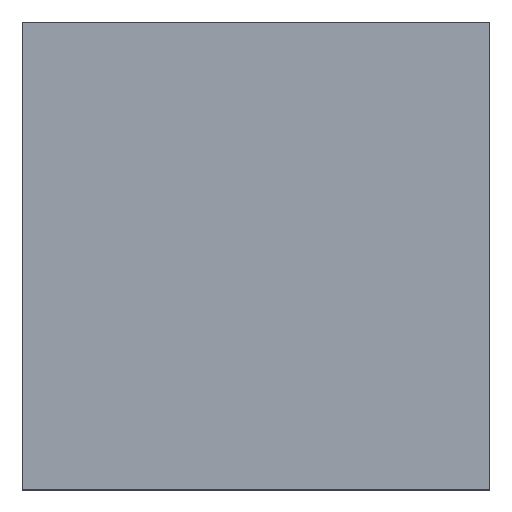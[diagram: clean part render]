
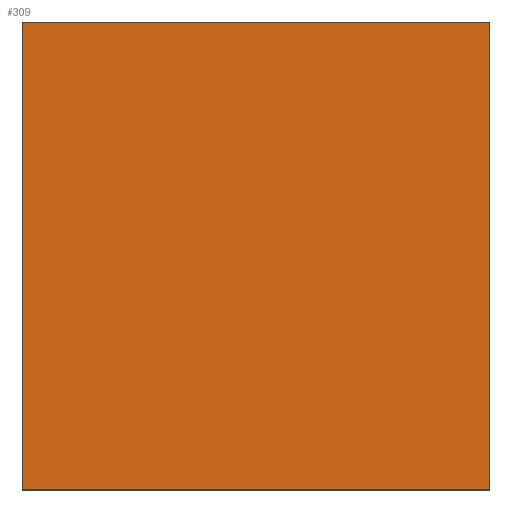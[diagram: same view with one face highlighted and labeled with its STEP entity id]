
A CAD part, top view. The second image highlights one B-rep face of the part: STEP entity #309.
In plain terms, the highlighted planar face has unit normal (0, 0, 1).
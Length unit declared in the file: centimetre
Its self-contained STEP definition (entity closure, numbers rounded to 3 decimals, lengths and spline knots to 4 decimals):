
#29 = EDGE_CURVE ( 'NONE', #84, #298, #147, .T. ) ;
#59 = CARTESIAN_POINT ( 'NONE',  ( 0., 1000., 1000. ) ) ;
#82 = EDGE_CURVE ( 'NONE', #298, #506, #451, .T. ) ;
#84 = VERTEX_POINT ( 'NONE', #509 ) ;
#96 = CARTESIAN_POINT ( 'NONE',  ( 1000., 1000., 1000. ) ) ;
#114 = DIRECTION ( 'NONE',  ( 1., 0., 0. ) ) ;
#135 = EDGE_LOOP ( 'NONE', ( #492, #291, #260, #209 ) ) ;
#147 = LINE ( 'NONE', #428, #467 ) ;
#166 = DIRECTION ( 'NONE',  ( 0., 0., 1. ) ) ;
#184 = EDGE_CURVE ( 'NONE', #203, #84, #431, .T. ) ;
#203 = VERTEX_POINT ( 'NONE', #96 ) ;
#208 = PLANE ( 'NONE',  #459 ) ;
#209 = ORIENTED_EDGE ( 'NONE', *, *, #184, .T. ) ;
#214 = CARTESIAN_POINT ( 'NONE',  ( 1000., 1000., 1000. ) ) ;
#219 = CARTESIAN_POINT ( 'NONE',  ( 0., 0., 1000. ) ) ;
#254 = LINE ( 'NONE', #214, #300 ) ;
#256 = VECTOR ( 'NONE', #406, 100. ) ;
#260 = ORIENTED_EDGE ( 'NONE', *, *, #438, .T. ) ;
#291 = ORIENTED_EDGE ( 'NONE', *, *, #82, .T. ) ;
#298 = VERTEX_POINT ( 'NONE', #526 ) ;
#300 = VECTOR ( 'NONE', #597, 100. ) ;
#309 = ADVANCED_FACE ( 'NONE', ( #530 ), #208, .T. ) ;
#334 = DIRECTION ( 'NONE',  ( 0., -1., 0. ) ) ;
#335 = DIRECTION ( 'NONE',  ( -1., 0., 0. ) ) ;
#358 = CARTESIAN_POINT ( 'NONE',  ( 1000., 0., 1000. ) ) ;
#397 = CARTESIAN_POINT ( 'NONE',  ( 0., 0., 1000. ) ) ;
#406 = DIRECTION ( 'NONE',  ( 1., 0., 0. ) ) ;
#428 = CARTESIAN_POINT ( 'NONE',  ( 0., 1000., 1000. ) ) ;
#431 = LINE ( 'NONE', #59, #508 ) ;
#438 = EDGE_CURVE ( 'NONE', #506, #203, #254, .T. ) ;
#451 = LINE ( 'NONE', #219, #256 ) ;
#459 = AXIS2_PLACEMENT_3D ( 'NONE', #397, #166, #114 ) ;
#467 = VECTOR ( 'NONE', #334, 100. ) ;
#492 = ORIENTED_EDGE ( 'NONE', *, *, #29, .T. ) ;
#506 = VERTEX_POINT ( 'NONE', #358 ) ;
#508 = VECTOR ( 'NONE', #335, 100. ) ;
#509 = CARTESIAN_POINT ( 'NONE',  ( 0., 1000., 1000. ) ) ;
#526 = CARTESIAN_POINT ( 'NONE',  ( 0., 0., 1000. ) ) ;
#530 = FACE_OUTER_BOUND ( 'NONE', #135, .T. ) ;
#597 = DIRECTION ( 'NONE',  ( 0., 1., 0. ) ) ;
